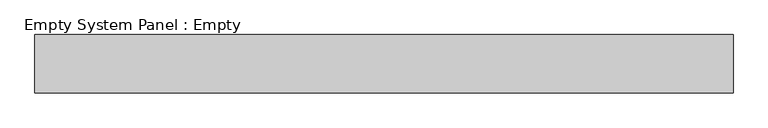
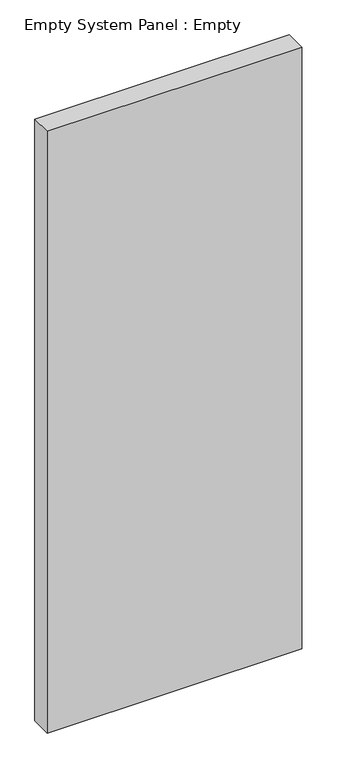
"""IFC4 building model written with IfcOpenShell, lengths in millimetres: plate geometry, Empty System Panel : Empty."""

from ifc_helpers import new_model, si_unit, origin, origin_with_axes, place, context, project, spatial, polyline, outline, extrude, source, transform, mapped, element, save


def empty_system_panel_empty_6b1ffbf5(model_context):
    return source(origin(), model_context, "Body", "SweptSolid", [
        extrude(outline(polyline([(600.0000001, -50.0), (-600.0000001, -50.0), (-600.0000001, 50.0), (600.0000001, 50.0), (600.0000001, -50.0)])), origin_with_axes(), (0.0, 0.0, 1.0), 3000.0),
    ])


if __name__ == "__main__":
    model = new_model("IFC4")
    model_context = context("Model", 3, world=origin())
    ifc_project = project(units=[si_unit("LENGTHUNIT", "METRE", prefix="MILLI")], contexts=[model_context])
    site = spatial("IfcSite", under=ifc_project)
    building = spatial("IfcBuilding", under=site)
    placement = place(None, origin())
    empty_system_panel_empty_shape = empty_system_panel_empty_6b1ffbf5(model_context)
    element("IfcPlate", 1, ObjectType="Empty System Panel : Empty", at=placement, inside=building, context=model_context, shape_type="MappedRepresentation", body=[
        mapped(empty_system_panel_empty_shape, transform((0.0, 0.0, 0.0), x_axis=(1.0, 0.0, 0.0), y_axis=(0.0, 1.0, 0.0), z_axis=(0.0, 0.0, 1.0))),
    ])
    save(model, "model.ifc")
